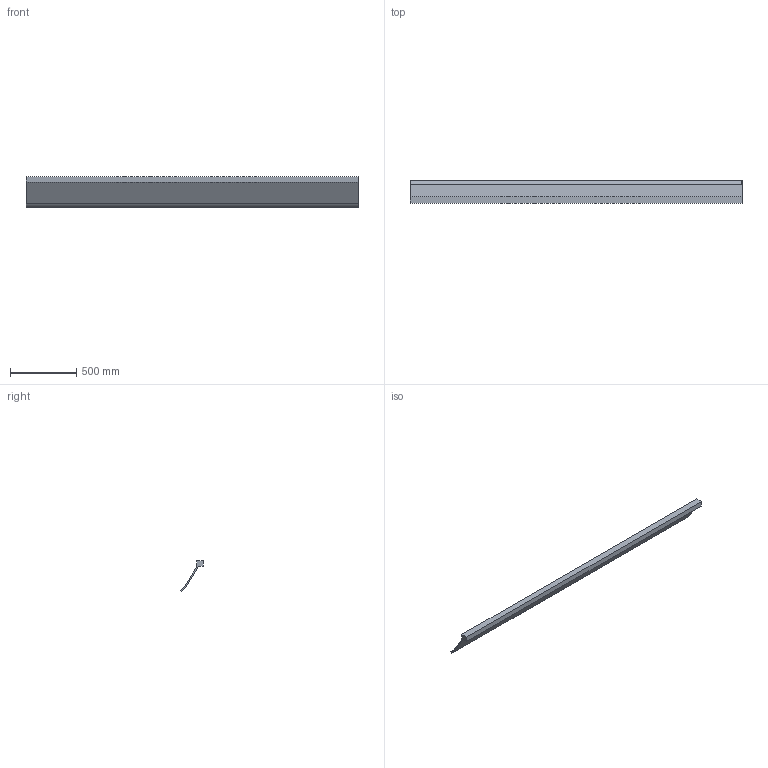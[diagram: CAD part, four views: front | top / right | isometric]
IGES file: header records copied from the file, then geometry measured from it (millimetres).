
Start section: SolidWorks IGES file using analytic representation for surfaces
Global section: file name: C:\Users\Stagiaire\Desktop\Rendu 3D\CORNICHE\195 CORNICHE\195_CORNICHE.IGS; native system: SolidWorks 2014; preprocessor: SolidWorks 2014; author: Stagiaire; date: 140915.094340; units: millimetre
Bounding box: 2500 x 170 x 230 mm (x, y, z)
Surface area: 1579705 mm2 (no closed solid volume)
Topology: 0 solids, 0 shells, 11 faces, 66 edges, 66 vertices
Faces by surface type: bspline 9, revolution 2
